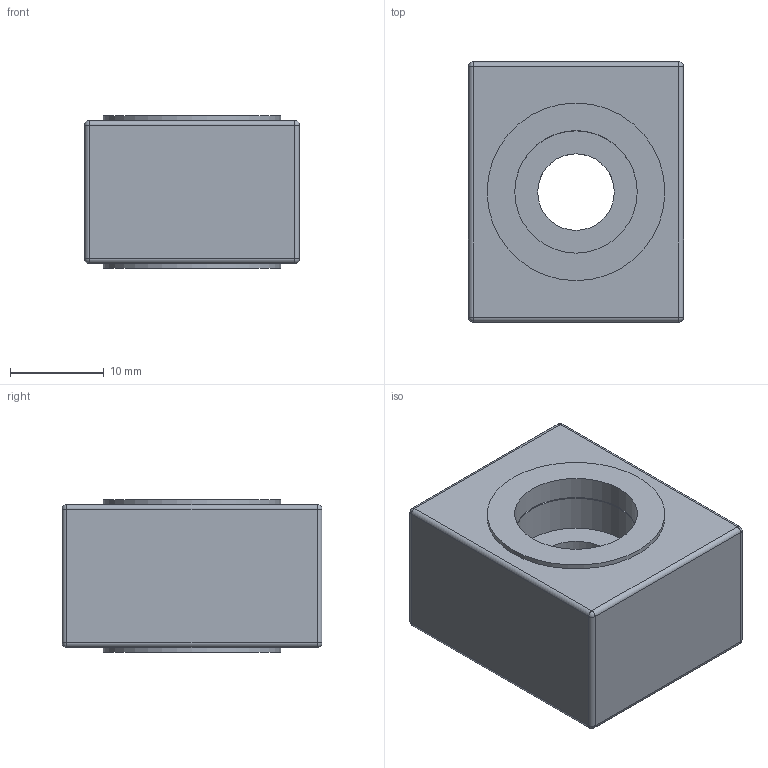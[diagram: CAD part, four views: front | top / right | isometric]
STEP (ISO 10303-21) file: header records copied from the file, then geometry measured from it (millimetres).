
FILE_DESCRIPTION(/* description */ (''),/* implementation_level */ '2;1');
FILE_NAME(/* name */ 'MBP Assembly v12.stp',/* time_stamp */ '2023-10-04T09:50:46-07:00',/* author */ ('RaniahC'),/* organization */ (''),/* preprocessor_version */ 'ST-DEVELOPER v19.2',/* originating_system */ 'Autodesk Inventor 2024',/* authorisation */ '');
FILE_SCHEMA (('AUTOMOTIVE_DESIGN { 1 0 10303 214 3 1 1 }'));
Length unit declared in the file: millimetre
Products named in the file (4): MBP Assembly; Inside Spacer; Shell; Updated Inside Piece
Assembly tree (3 placements, depth 2):
  MBP Assembly
    Inside Spacer
    Shell
    Updated Inside Piece
Bounding box: 23 x 27.8 x 16.3 mm (x, y, z)
Volume: 7206.8 mm3; surface area: 6789.2 mm2
Topology: 3 solids, 3 shells, 85 faces, 191 edges, 118 vertices
Faces by surface type: plane 48, cylinder 29, sphere 8
Full cylindrical faces by diameter (mm): 8.18 x1, 13.1 x4, 19 x2
Entity records: 2552 total; most frequent: DIRECTION 435, CARTESIAN_POINT 402, ORIENTED_EDGE 382, EDGE_CURVE 191, AXIS2_PLACEMENT_3D 151, LINE 133, VECTOR 133, VERTEX_POINT 118
